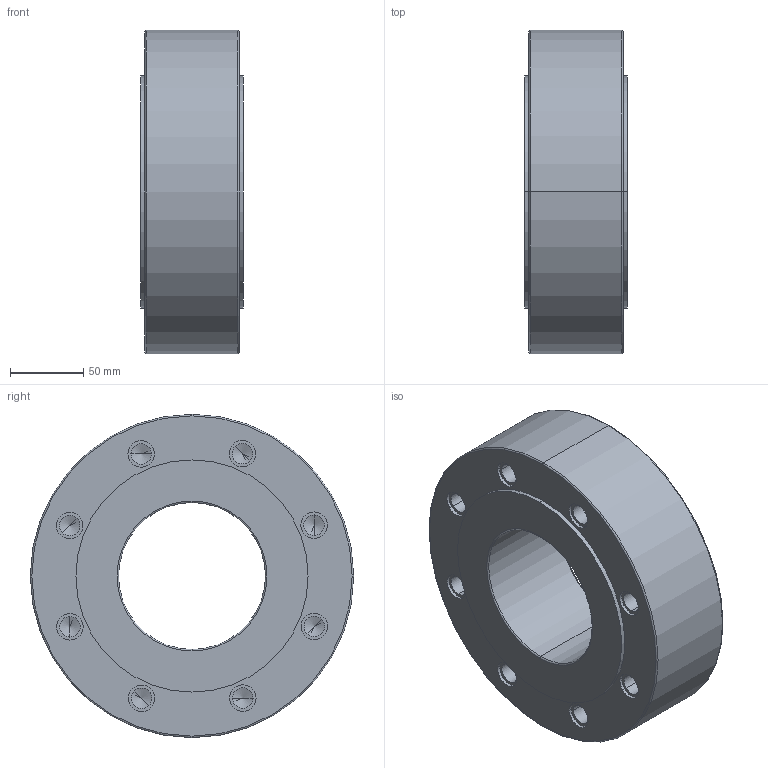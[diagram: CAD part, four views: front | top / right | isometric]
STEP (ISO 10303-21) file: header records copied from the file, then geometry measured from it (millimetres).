
FILE_DESCRIPTION (( 'STEP AP203' ), '1' );
FILE_NAME ('W8_PN10_DN100.STEP', '2012-10-31T06:56:55', ( 'luca.saino' ), ( 'Hewlett-Packard Company' ), 'SwSTEP 2.0', 'SolidWorks 2012', '' );
FILE_SCHEMA (( 'CONFIG_CONTROL_DESIGN' ));
Length unit declared in the file: millimetre
Products named in the file (1): W8_PN10_DN100
Bounding box: 70 x 220 x 220 mm (x, y, z)
Volume: 1942626.1 mm3; surface area: 144174.3 mm2
Topology: 1 solids, 1 shells, 132 faces, 296 edges, 168 vertices
Faces by surface type: cylinder 72, cone 32, plane 20, torus 8
Entity records: 3557 total; most frequent: DIRECTION 690, CARTESIAN_POINT 565, ORIENTED_EDGE 528, AXIS2_PLACEMENT_3D 293, EDGE_CURVE 264, EDGE_LOOP 168, VERTEX_POINT 168, CIRCLE 160
